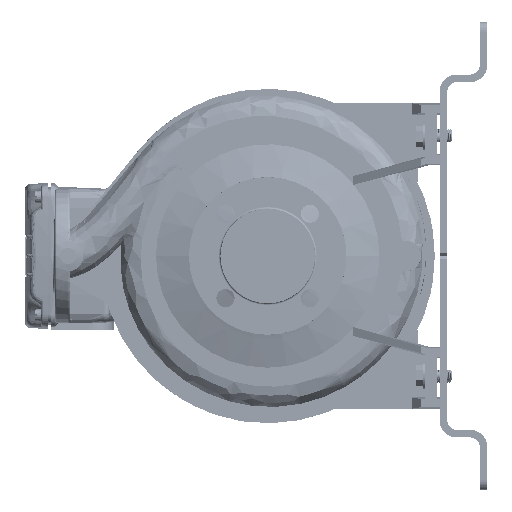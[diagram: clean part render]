
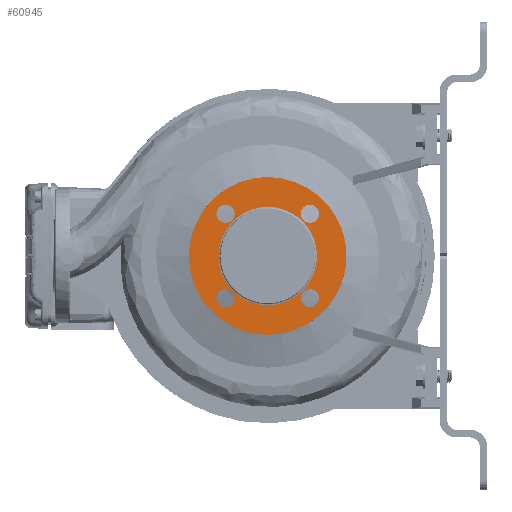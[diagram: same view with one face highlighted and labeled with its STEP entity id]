
A CAD part, left-side view. The second image highlights one B-rep face of the part: STEP entity #60945.
In plain terms, the highlighted planar face has unit normal (-1, 0, 0).
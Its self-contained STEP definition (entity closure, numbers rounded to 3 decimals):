
#3456 = DIRECTION ( 'NONE',  ( -1., 0., 0. ) ) ;
#4080 = CARTESIAN_POINT ( 'NONE',  ( -216.468, 274.331, 351.511 ) ) ;
#6192 = DIRECTION ( 'NONE',  ( -1., 0., 0. ) ) ;
#6441 = EDGE_CURVE ( 'NONE', #136261, #48780, #197851, .T. ) ;
#8829 = EDGE_CURVE ( 'NONE', #127423, #145215, #308194, .T. ) ;
#9278 = DIRECTION ( 'NONE',  ( 1., 0., 0. ) ) ;
#16844 = CIRCLE ( 'NONE', #26848, 9.5 ) ;
#18482 = CARTESIAN_POINT ( 'NONE',  ( -216.468, 264.831, 439.899 ) ) ;
#20018 = DIRECTION ( 'NONE',  ( 0., -1., 0. ) ) ;
#20898 = CIRCLE ( 'NONE', #150614, 82.5 ) ;
#24464 = CARTESIAN_POINT ( 'NONE',  ( -216.468, 138.137, 395.705 ) ) ;
#25493 = AXIS2_PLACEMENT_3D ( 'NONE', #242347, #98621, #243887 ) ;
#26848 = AXIS2_PLACEMENT_3D ( 'NONE', #18482, #213462, #20018 ) ;
#26918 = VERTEX_POINT ( 'NONE', #24464 ) ;
#27767 = DIRECTION ( 'NONE',  ( -1., 0., 0. ) ) ;
#30079 = DIRECTION ( 'NONE',  ( 1., 0., 0. ) ) ;
#30137 = VERTEX_POINT ( 'NONE', #263672 ) ;
#30307 = DIRECTION ( 'NONE',  ( 1., 0., 0. ) ) ;
#31825 = DIRECTION ( 'NONE',  ( -1., 0., 0. ) ) ;
#32886 = DIRECTION ( 'NONE',  ( 0., 0., 1. ) ) ;
#40471 = CIRCLE ( 'NONE', #185122, 9.5 ) ;
#48780 = VERTEX_POINT ( 'NONE', #98365 ) ;
#49899 = VERTEX_POINT ( 'NONE', #55602 ) ;
#53382 = EDGE_LOOP ( 'NONE', ( #181980, #115439 ) ) ;
#53512 = CIRCLE ( 'NONE', #282725, 9.5 ) ;
#55602 = CARTESIAN_POINT ( 'NONE',  ( -216.468, 255.331, 439.899 ) ) ;
#57710 = DIRECTION ( 'NONE',  ( 0., 0., -1. ) ) ;
#58640 = AXIS2_PLACEMENT_3D ( 'NONE', #289087, #3456, #195464 ) ;
#60477 = EDGE_LOOP ( 'NONE', ( #147988, #113479 ) ) ;
#60945 = ADVANCED_FACE ( 'NONE', ( #121333, #216604, #168343, #285298, #263433, #90258 ), #185540, .T. ) ;
#61804 = EDGE_LOOP ( 'NONE', ( #81603, #292060 ) ) ;
#68088 = EDGE_CURVE ( 'NONE', #105310, #26918, #20898, .T. ) ;
#80118 = CARTESIAN_POINT ( 'NONE',  ( -216.468, 220.637, 395.705 ) ) ;
#81137 = EDGE_CURVE ( 'NONE', #49899, #160716, #16844, .T. ) ;
#81603 = ORIENTED_EDGE ( 'NONE', *, *, #68088, .F. ) ;
#86299 = EDGE_LOOP ( 'NONE', ( #139907, #180759 ) ) ;
#90258 = FACE_OUTER_BOUND ( 'NONE', #61804, .T. ) ;
#94260 = DIRECTION ( 'NONE',  ( -1., 0., 0. ) ) ;
#96449 = CARTESIAN_POINT ( 'NONE',  ( -216.468, 274.331, 439.899 ) ) ;
#97713 = CARTESIAN_POINT ( 'NONE',  ( -216.468, 166.943, 439.899 ) ) ;
#98365 = CARTESIAN_POINT ( 'NONE',  ( -216.468, 185.943, 351.511 ) ) ;
#98621 = DIRECTION ( 'NONE',  ( 1., 0., 0. ) ) ;
#104095 = CARTESIAN_POINT ( 'NONE',  ( -216.468, 272.137, 395.705 ) ) ;
#104438 = DIRECTION ( 'NONE',  ( 0., 1., 0. ) ) ;
#105310 = VERTEX_POINT ( 'NONE', #287949 ) ;
#106646 = CARTESIAN_POINT ( 'NONE',  ( -216.468, 176.443, 351.511 ) ) ;
#109766 = AXIS2_PLACEMENT_3D ( 'NONE', #106646, #31825, #200349 ) ;
#110580 = CARTESIAN_POINT ( 'NONE',  ( -216.468, 220.637, 395.705 ) ) ;
#113479 = ORIENTED_EDGE ( 'NONE', *, *, #296372, .T. ) ;
#115439 = ORIENTED_EDGE ( 'NONE', *, *, #304186, .F. ) ;
#120816 = ORIENTED_EDGE ( 'NONE', *, *, #6441, .F. ) ;
#121333 = FACE_BOUND ( 'NONE', #86299, .T. ) ;
#122290 = DIRECTION ( 'NONE',  ( 0., 0., -1. ) ) ;
#125363 = DIRECTION ( 'NONE',  ( -1., 0., 0. ) ) ;
#125624 = EDGE_CURVE ( 'NONE', #227390, #30137, #307536, .T. ) ;
#126909 = CARTESIAN_POINT ( 'NONE',  ( -216.468, 264.831, 351.511 ) ) ;
#127423 = VERTEX_POINT ( 'NONE', #97713 ) ;
#131245 = AXIS2_PLACEMENT_3D ( 'NONE', #110580, #9278, #104438 ) ;
#136261 = VERTEX_POINT ( 'NONE', #250997 ) ;
#136562 = EDGE_CURVE ( 'NONE', #48780, #136261, #279327, .T. ) ;
#138822 = AXIS2_PLACEMENT_3D ( 'NONE', #126909, #125363, #265851 ) ;
#139907 = ORIENTED_EDGE ( 'NONE', *, *, #271332, .F. ) ;
#143108 = AXIS2_PLACEMENT_3D ( 'NONE', #257383, #283823, #159272 ) ;
#145215 = VERTEX_POINT ( 'NONE', #181113 ) ;
#147988 = ORIENTED_EDGE ( 'NONE', *, *, #258400, .T. ) ;
#150614 = AXIS2_PLACEMENT_3D ( 'NONE', #170622, #30079, #200120 ) ;
#159272 = DIRECTION ( 'NONE',  ( 0., 1., 0. ) ) ;
#160716 = VERTEX_POINT ( 'NONE', #96449 ) ;
#168343 = FACE_BOUND ( 'NONE', #53382, .T. ) ;
#170622 = CARTESIAN_POINT ( 'NONE',  ( -216.468, 220.637, 395.705 ) ) ;
#173732 = AXIS2_PLACEMENT_3D ( 'NONE', #198154, #6192, #57710 ) ;
#176096 = CIRCLE ( 'NONE', #131245, 51.5 ) ;
#178560 = CARTESIAN_POINT ( 'NONE',  ( -216.468, 272.137, 395.705 ) ) ;
#180759 = ORIENTED_EDGE ( 'NONE', *, *, #125624, .F. ) ;
#180860 = VERTEX_POINT ( 'NONE', #178560 ) ;
#181113 = CARTESIAN_POINT ( 'NONE',  ( -216.468, 185.943, 439.899 ) ) ;
#181980 = ORIENTED_EDGE ( 'NONE', *, *, #8829, .F. ) ;
#185122 = AXIS2_PLACEMENT_3D ( 'NONE', #246754, #218673, #32886 ) ;
#185540 = PLANE ( 'NONE',  #274685 ) ;
#194729 = DIRECTION ( 'NONE',  ( 0., -1., 0. ) ) ;
#195464 = DIRECTION ( 'NONE',  ( 0., -1., 0. ) ) ;
#197272 = DIRECTION ( 'NONE',  ( 0., 1., 0. ) ) ;
#197851 = CIRCLE ( 'NONE', #143108, 9.5 ) ;
#198154 = CARTESIAN_POINT ( 'NONE',  ( -216.468, 176.443, 439.899 ) ) ;
#200120 = DIRECTION ( 'NONE',  ( 0., 1., 0. ) ) ;
#200349 = DIRECTION ( 'NONE',  ( 0., 1., 0. ) ) ;
#200647 = EDGE_CURVE ( 'NONE', #26918, #105310, #289652, .T. ) ;
#201046 = ORIENTED_EDGE ( 'NONE', *, *, #265118, .F. ) ;
#209802 = CARTESIAN_POINT ( 'NONE',  ( -216.468, 169.137, 395.705 ) ) ;
#211438 = CARTESIAN_POINT ( 'NONE',  ( -216.468, 176.443, 439.899 ) ) ;
#213462 = DIRECTION ( 'NONE',  ( -1., 0., 0. ) ) ;
#216604 = FACE_BOUND ( 'NONE', #297363, .T. ) ;
#218673 = DIRECTION ( 'NONE',  ( -1., 0., 0. ) ) ;
#225480 = EDGE_LOOP ( 'NONE', ( #280662, #201046 ) ) ;
#227390 = VERTEX_POINT ( 'NONE', #4080 ) ;
#239557 = CIRCLE ( 'NONE', #274217, 51.5 ) ;
#242347 = CARTESIAN_POINT ( 'NONE',  ( -216.468, 220.637, 395.705 ) ) ;
#243159 = CIRCLE ( 'NONE', #58640, 9.5 ) ;
#243887 = DIRECTION ( 'NONE',  ( 0., 1., 0. ) ) ;
#246754 = CARTESIAN_POINT ( 'NONE',  ( -216.468, 264.831, 351.511 ) ) ;
#250997 = CARTESIAN_POINT ( 'NONE',  ( -216.468, 166.943, 351.511 ) ) ;
#257383 = CARTESIAN_POINT ( 'NONE',  ( -216.468, 176.443, 351.511 ) ) ;
#258400 = EDGE_CURVE ( 'NONE', #180860, #301012, #239557, .T. ) ;
#263433 = FACE_BOUND ( 'NONE', #60477, .T. ) ;
#263672 = CARTESIAN_POINT ( 'NONE',  ( -216.468, 255.331, 351.511 ) ) ;
#265118 = EDGE_CURVE ( 'NONE', #160716, #49899, #243159, .T. ) ;
#265851 = DIRECTION ( 'NONE',  ( 0., 0., 1. ) ) ;
#271332 = EDGE_CURVE ( 'NONE', #30137, #227390, #40471, .T. ) ;
#274217 = AXIS2_PLACEMENT_3D ( 'NONE', #80118, #30307, #197272 ) ;
#274685 = AXIS2_PLACEMENT_3D ( 'NONE', #104095, #27767, #194729 ) ;
#279327 = CIRCLE ( 'NONE', #109766, 9.5 ) ;
#280662 = ORIENTED_EDGE ( 'NONE', *, *, #81137, .F. ) ;
#281148 = ORIENTED_EDGE ( 'NONE', *, *, #136562, .F. ) ;
#282725 = AXIS2_PLACEMENT_3D ( 'NONE', #211438, #94260, #122290 ) ;
#283823 = DIRECTION ( 'NONE',  ( -1., 0., 0. ) ) ;
#285298 = FACE_BOUND ( 'NONE', #225480, .T. ) ;
#287949 = CARTESIAN_POINT ( 'NONE',  ( -216.468, 303.137, 395.705 ) ) ;
#289087 = CARTESIAN_POINT ( 'NONE',  ( -216.468, 264.831, 439.899 ) ) ;
#289652 = CIRCLE ( 'NONE', #25493, 82.5 ) ;
#292060 = ORIENTED_EDGE ( 'NONE', *, *, #200647, .F. ) ;
#296372 = EDGE_CURVE ( 'NONE', #301012, #180860, #176096, .T. ) ;
#297363 = EDGE_LOOP ( 'NONE', ( #120816, #281148 ) ) ;
#301012 = VERTEX_POINT ( 'NONE', #209802 ) ;
#304186 = EDGE_CURVE ( 'NONE', #145215, #127423, #53512, .T. ) ;
#307536 = CIRCLE ( 'NONE', #138822, 9.5 ) ;
#308194 = CIRCLE ( 'NONE', #173732, 9.5 ) ;
